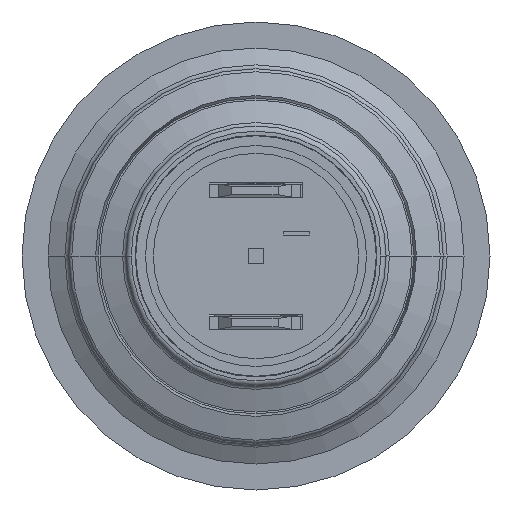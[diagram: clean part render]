
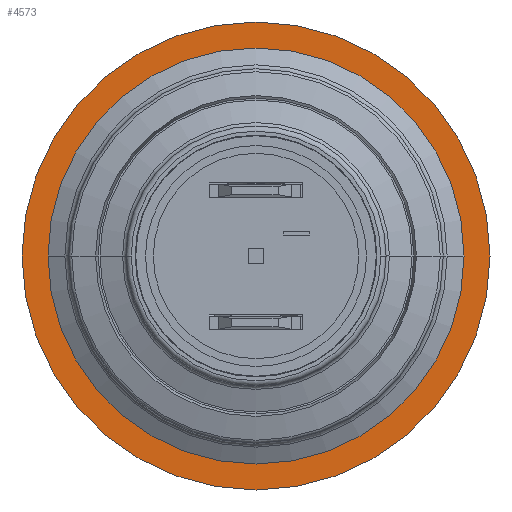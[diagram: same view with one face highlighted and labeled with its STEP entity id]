
A CAD part, front view. The second image highlights one B-rep face of the part: STEP entity #4573.
In plain terms, the highlighted planar face has unit normal (0, -1, 0).
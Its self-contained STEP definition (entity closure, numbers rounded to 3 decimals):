
#151=CARTESIAN_POINT('',(0.,12.,0.));
#152=DIRECTION('',(0.,-1.,0.));
#153=DIRECTION('',(1.,0.,0.));
#154=AXIS2_PLACEMENT_3D('',#151,#152,#153);
#164=CARTESIAN_POINT('',(0.,12.,0.));
#165=DIRECTION('',(0.,1.,0.));
#166=DIRECTION('',(1.,0.,0.));
#167=AXIS2_PLACEMENT_3D('',#164,#165,#166);
#169=CARTESIAN_POINT('',(0.,12.,0.));
#170=DIRECTION('',(0.,1.,0.));
#171=DIRECTION('',(1.,0.,0.));
#172=AXIS2_PLACEMENT_3D('',#169,#170,#171);
#174=CARTESIAN_POINT('',(0.,12.,0.));
#175=DIRECTION('',(0.,-1.,0.));
#176=DIRECTION('',(1.,0.,0.));
#177=AXIS2_PLACEMENT_3D('',#174,#175,#176);
#3361=CARTESIAN_POINT('',(8.,12.,0.));
#3363=VERTEX_POINT('',#3361);
#3364=CARTESIAN_POINT('',(9.,12.,0.));
#3366=VERTEX_POINT('',#3364);
#3375=CARTESIAN_POINT('',(-8.,12.,0.));
#3377=VERTEX_POINT('',#3375);
#3378=CARTESIAN_POINT('',(-9.,12.,0.));
#3380=VERTEX_POINT('',#3378);
#4558=CARTESIAN_POINT('',(0.,12.,0.));
#4559=DIRECTION('',(0.,-1.,0.));
#4560=DIRECTION('',(-1.,0.,0.));
#4561=AXIS2_PLACEMENT_3D('',#4558,#4559,#4560);
#4562=PLANE('',#4561);
#4563=ORIENTED_EDGE('',*,*,#4537,.F.);
#4564=ORIENTED_EDGE('',*,*,#4553,.T.);
#4565=EDGE_LOOP('',(#4563,#4564));
#4566=FACE_OUTER_BOUND('',#4565,.F.);
#4568=ORIENTED_EDGE('',*,*,#4567,.F.);
#4570=ORIENTED_EDGE('',*,*,#4569,.T.);
#4571=EDGE_LOOP('',(#4568,#4570));
#4572=FACE_BOUND('',#4571,.F.);
#4573=ADVANCED_FACE('',(#4566,#4572),#4562,.T.);
#155=CIRCLE('',#154,9.);
#168=CIRCLE('',#167,9.);
#173=CIRCLE('',#172,8.);
#178=CIRCLE('',#177,8.);
#4537=EDGE_CURVE('',#3366,#3380,#155,.T.);
#4553=EDGE_CURVE('',#3366,#3380,#168,.T.);
#4567=EDGE_CURVE('',#3363,#3377,#173,.T.);
#4569=EDGE_CURVE('',#3363,#3377,#178,.T.);
